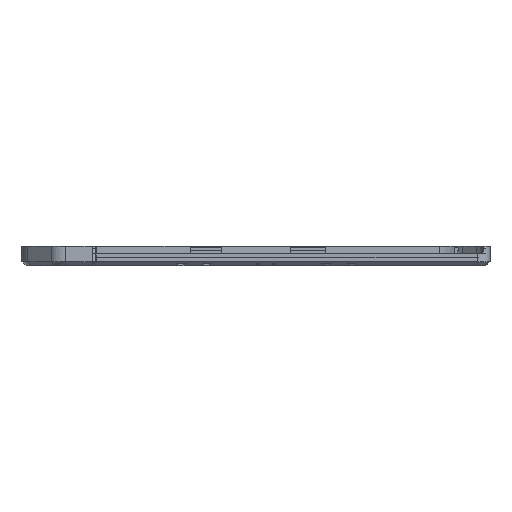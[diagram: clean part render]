
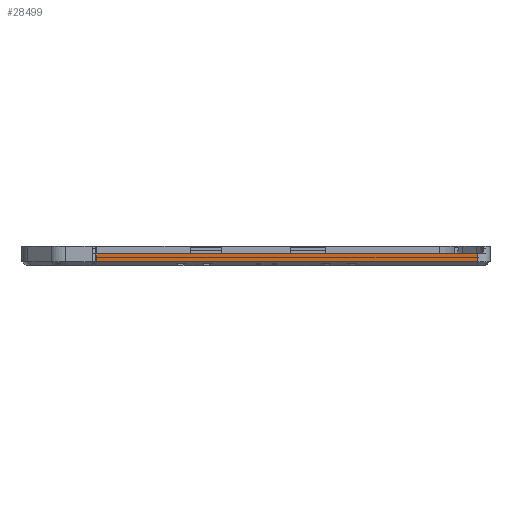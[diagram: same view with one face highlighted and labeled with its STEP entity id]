
A CAD part, left-side view. The second image highlights one B-rep face of the part: STEP entity #28499.
In plain terms, the highlighted planar face has unit normal (-1, 0, 0).
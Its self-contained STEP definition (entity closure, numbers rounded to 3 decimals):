
#5272=DIRECTION('',(0.,-1.,0.));
#5273=VECTOR('',#5272,94.7);
#5274=CARTESIAN_POINT('',(-131.2,40.,-40.5));
#5275=LINE('',#5274,#5273);
#5308=DIRECTION('',(0.,0.,1.));
#5309=VECTOR('',#5308,1.917);
#5310=CARTESIAN_POINT('',(-131.2,40.,-40.5));
#5311=LINE('',#5310,#5309);
#5312=DIRECTION('',(0.,0.,1.));
#5313=VECTOR('',#5312,1.926);
#5314=CARTESIAN_POINT('',(-131.2,-54.7,
-40.5));
#5315=LINE('',#5314,#5313);
#6404=CARTESIAN_POINT('',(-131.2,-54.7,-38.574));
#6410=CARTESIAN_POINT('',(-131.2,-54.5,-38.583));
#6411=CARTESIAN_POINT('',(-131.2,-54.533,-38.583));
#6412=CARTESIAN_POINT('',(-131.2,-54.6,-38.581));
#6413=CARTESIAN_POINT('',(-131.2,-54.666,-38.577));
#6414=CARTESIAN_POINT('',(-131.2,-54.7,-38.574));
#6424=DIRECTION('',(0.,1.,0.));
#6425=VECTOR('',#6424,94.5);
#6426=CARTESIAN_POINT('',(-131.2,-54.5,-38.583));
#6427=LINE('',#6426,#6425);
#22470=CARTESIAN_POINT('',(-131.2,-54.5,-38.583));
#22471=VERTEX_POINT('',#22470);
#22472=CARTESIAN_POINT('',(-131.2,40.,-38.583));
#22473=VERTEX_POINT('',#22472);
#22480=VERTEX_POINT('',#6404);
#22563=CARTESIAN_POINT('',(-131.2,-54.7,-40.5));
#22565=VERTEX_POINT('',#22563);
#22690=CARTESIAN_POINT('',(-131.2,40.,-40.5));
#22691=VERTEX_POINT('',#22690);
#28483=CARTESIAN_POINT('',(-131.2,-60.848,-36.7));
#28484=DIRECTION('',(1.,0.,0.));
#28485=DIRECTION('',(0.,1.,0.));
#28486=AXIS2_PLACEMENT_3D('',#28483,#28484,#28485);
#28487=PLANE('',#28486);
#28488=ORIENTED_EDGE('',*,*,#28425,.F.);
#28490=ORIENTED_EDGE('',*,*,#28489,.T.);
#28492=ORIENTED_EDGE('',*,*,#28491,.F.);
#28494=ORIENTED_EDGE('',*,*,#28493,.T.);
#28496=ORIENTED_EDGE('',*,*,#28495,.F.);
#28497=EDGE_LOOP('',(#28488,#28490,#28492,#28494,#28496));
#28498=FACE_OUTER_BOUND('',#28497,.F.);
#6415=B_SPLINE_CURVE_WITH_KNOTS('',3,(#6410,#6411,#6412,#6413,#6414),
.UNSPECIFIED.,.F.,.F.,(4,1,4),(0.,0.5,1.),.UNSPECIFIED.);
#28425=EDGE_CURVE('',#22691,#22565,#5275,.T.);
#28489=EDGE_CURVE('',#22691,#22473,#5311,.T.);
#28491=EDGE_CURVE('',#22471,#22473,#6427,.T.);
#28493=EDGE_CURVE('',#22471,#22480,#6415,.T.);
#28495=EDGE_CURVE('',#22565,#22480,#5315,.T.);
#28499=ADVANCED_FACE('',(#28498),#28487,.F.);
